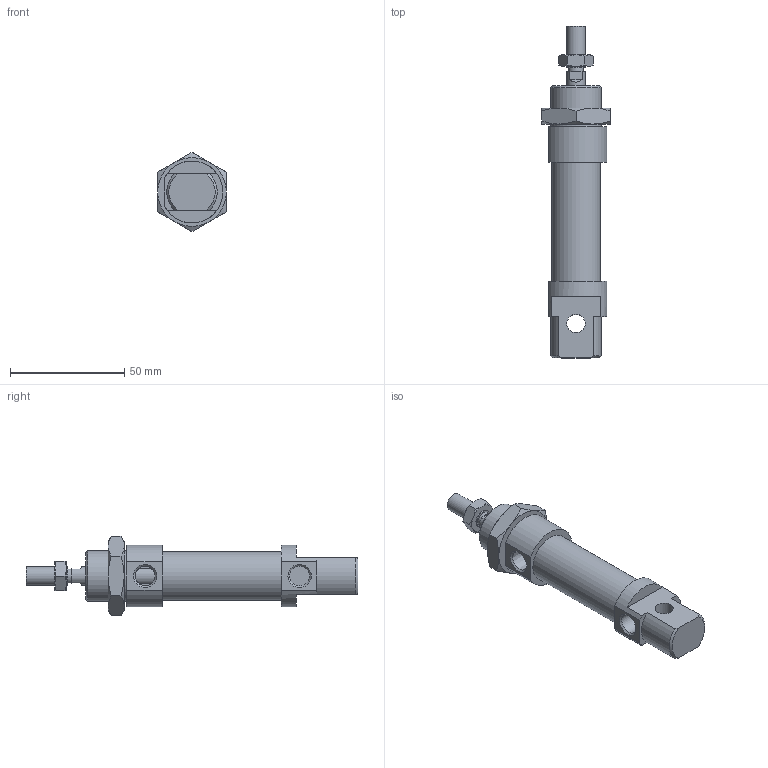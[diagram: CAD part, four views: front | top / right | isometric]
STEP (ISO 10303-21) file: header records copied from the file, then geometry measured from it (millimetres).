
FILE_DESCRIPTION((''),'2;1');
FILE_NAME('I:\Area Tecnica\Disegni\VARIE-3D\Componenti\1280\1280_##_####_#\1280_20_0015.iam.stp','2009-06-04T09:44:05',(''),(''),'Autodesk Inventor 2010','Autodesk Inventor 2010','');
FILE_SCHEMA(('AUTOMOTIVE_DESIGN { 1 0 10303 214 1 1 1 1 }'));
Length unit declared in the file: millimetre
Products named in the file (5): 1280_20_0015; C1280_20_15; S1280_20_15; 1200_20_05; 1200_20_06
Assembly tree (4 placements, depth 2):
  1280_20_0015
    C1280_20_15
    S1280_20_15
    1200_20_05
    1200_20_06
Bounding box: 30 x 145 x 34.64 mm (x, y, z)
Volume: 49651.7 mm3; surface area: 16284.4 mm2
Topology: 4 solids, 4 shells, 92 faces, 204 edges, 125 vertices
Faces by surface type: plane 41, cone 28, bspline 12, cylinder 11
Full cylindrical faces by diameter (mm): 6.5 x1, 8 x4, 21.2 x1, 22 x1
Entity records: 2742 total; most frequent: CARTESIAN_POINT 697, DIRECTION 376, ORIENTED_EDGE 356, EDGE_CURVE 178, AXIS2_PLACEMENT_3D 163, EDGE_LOOP 124, VERTEX_POINT 118, STYLED_ITEM 96
